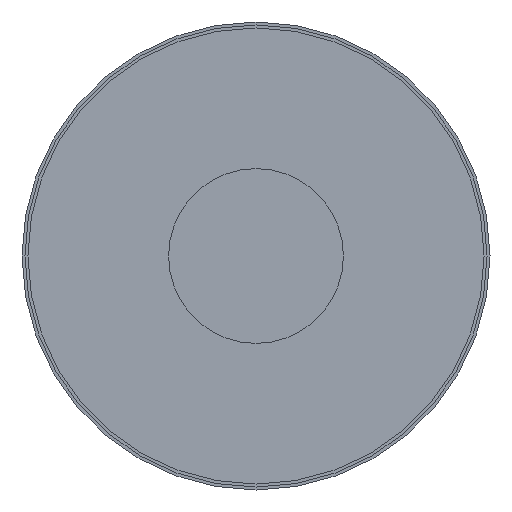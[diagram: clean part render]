
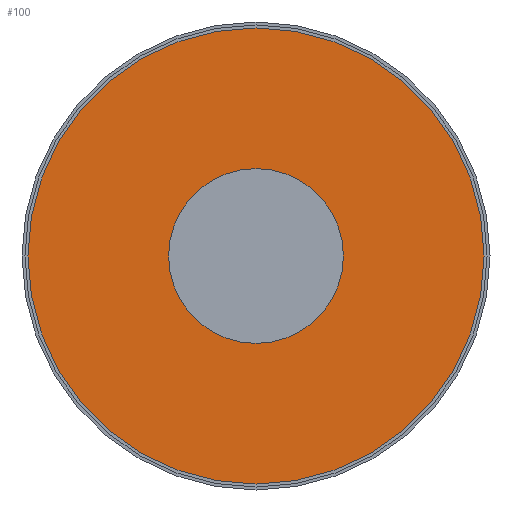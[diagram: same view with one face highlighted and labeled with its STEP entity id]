
A CAD part, front view. The second image highlights one B-rep face of the part: STEP entity #100.
In plain terms, the highlighted planar face has unit normal (0, -1, 0).
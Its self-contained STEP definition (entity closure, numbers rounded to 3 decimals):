
#15 = ORIENTED_EDGE ( 'NONE', *, *, #330, .F. ) ;
#47 = CIRCLE ( 'NONE', #50, 3.85 ) ;
#50 = AXIS2_PLACEMENT_3D ( 'NONE', #66, #59, #58 ) ;
#54 = CARTESIAN_POINT ( 'NONE',  ( 0., 0., 0. ) ) ;
#55 = DIRECTION ( 'NONE',  ( 0., 0., -1. ) ) ;
#58 = DIRECTION ( 'NONE',  ( 0., 0., -1. ) ) ;
#59 = DIRECTION ( 'NONE',  ( 0., -1., 0. ) ) ;
#63 = AXIS2_PLACEMENT_3D ( 'NONE', #108, #105, #103 ) ;
#66 = CARTESIAN_POINT ( 'NONE',  ( 0., 0., 0. ) ) ;
#73 = AXIS2_PLACEMENT_3D ( 'NONE', #145, #144, #140 ) ;
#89 = EDGE_LOOP ( 'NONE', ( #372, #265 ) ) ;
#90 = CARTESIAN_POINT ( 'NONE',  ( 0., 0., 1.475 ) ) ;
#91 = DIRECTION ( 'NONE',  ( 0., -1., 0. ) ) ;
#100 = ADVANCED_FACE ( 'NONE', ( #350, #340 ), #249, .F. ) ;
#102 = CIRCLE ( 'NONE', #73, 3.85 ) ;
#103 = DIRECTION ( 'NONE',  ( 0., 0., -1. ) ) ;
#105 = DIRECTION ( 'NONE',  ( 0., -1., 0. ) ) ;
#108 = CARTESIAN_POINT ( 'NONE',  ( 0., 0., 0. ) ) ;
#113 = CARTESIAN_POINT ( 'NONE',  ( 0., 0., 3.85 ) ) ;
#120 = CIRCLE ( 'NONE', #63, 1.475 ) ;
#131 = AXIS2_PLACEMENT_3D ( 'NONE', #54, #91, #55 ) ;
#140 = DIRECTION ( 'NONE',  ( 0., 0., -1. ) ) ;
#144 = DIRECTION ( 'NONE',  ( 0., -1., 0. ) ) ;
#145 = CARTESIAN_POINT ( 'NONE',  ( 0., 0., 0. ) ) ;
#174 = VERTEX_POINT ( 'NONE', #313 ) ;
#181 = EDGE_LOOP ( 'NONE', ( #15, #310 ) ) ;
#187 = AXIS2_PLACEMENT_3D ( 'NONE', #252, #232, #256 ) ;
#204 = CIRCLE ( 'NONE', #131, 1.475 ) ;
#225 = VERTEX_POINT ( 'NONE', #286 ) ;
#232 = DIRECTION ( 'NONE',  ( 0., 1., 0. ) ) ;
#249 = PLANE ( 'NONE',  #187 ) ;
#252 = CARTESIAN_POINT ( 'NONE',  ( 0., 0., 0. ) ) ;
#256 = DIRECTION ( 'NONE',  ( 0., 0., 1. ) ) ;
#265 = ORIENTED_EDGE ( 'NONE', *, *, #343, .T. ) ;
#286 = CARTESIAN_POINT ( 'NONE',  ( 0., 0., -1.475 ) ) ;
#292 = EDGE_CURVE ( 'NONE', #379, #225, #204, .T. ) ;
#308 = EDGE_CURVE ( 'NONE', #174, #338, #102, .T. ) ;
#310 = ORIENTED_EDGE ( 'NONE', *, *, #292, .F. ) ;
#313 = CARTESIAN_POINT ( 'NONE',  ( 0., 0., -3.85 ) ) ;
#330 = EDGE_CURVE ( 'NONE', #225, #379, #120, .T. ) ;
#338 = VERTEX_POINT ( 'NONE', #113 ) ;
#340 = FACE_OUTER_BOUND ( 'NONE', #89, .T. ) ;
#343 = EDGE_CURVE ( 'NONE', #338, #174, #47, .T. ) ;
#350 = FACE_BOUND ( 'NONE', #181, .T. ) ;
#372 = ORIENTED_EDGE ( 'NONE', *, *, #308, .T. ) ;
#379 = VERTEX_POINT ( 'NONE', #90 ) ;
